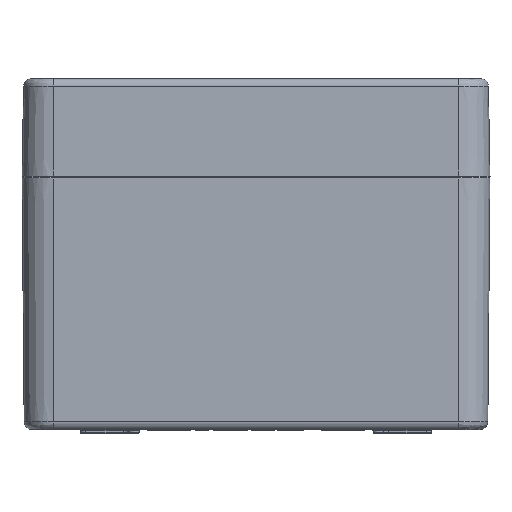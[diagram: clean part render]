
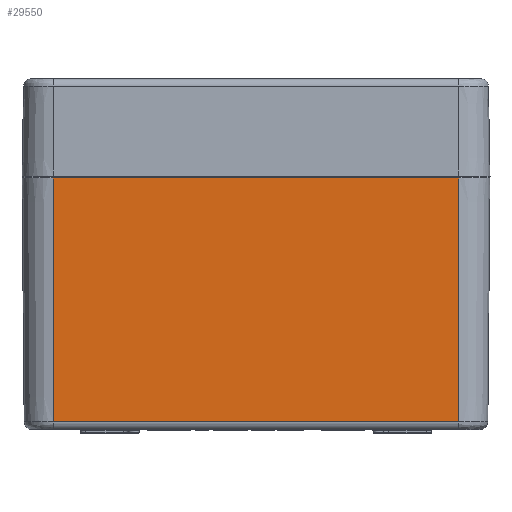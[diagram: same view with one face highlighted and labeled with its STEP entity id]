
A CAD part, front view. The second image highlights one B-rep face of the part: STEP entity #29550.
In plain terms, the highlighted planar face has unit normal (0, -1, -0.009).
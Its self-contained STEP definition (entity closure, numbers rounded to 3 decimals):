
#1853 = VECTOR ( 'NONE', #21988, 1000. ) ;
#2424 = VECTOR ( 'NONE', #28248, 1000. ) ;
#5520 = ORIENTED_EDGE ( 'NONE', *, *, #16308, .F. ) ;
#7810 = EDGE_CURVE ( 'NONE', #38440, #31833, #33858, .T. ) ;
#9645 = ORIENTED_EDGE ( 'NONE', *, *, #7810, .F. ) ;
#9810 = DIRECTION ( 'NONE',  ( 0., 0.009, -1. ) ) ;
#10677 = CARTESIAN_POINT ( 'NONE',  ( 0., -61., 0. ) ) ;
#10817 = DIRECTION ( 'NONE',  ( 0., -0.009, 1. ) ) ;
#12950 = PLANE ( 'NONE',  #29521 ) ;
#13464 = EDGE_CURVE ( 'NONE', #26662, #14219, #18598, .T. ) ;
#14219 = VERTEX_POINT ( 'NONE', #17519 ) ;
#14918 = FACE_OUTER_BOUND ( 'NONE', #15199, .T. ) ;
#15199 = EDGE_LOOP ( 'NONE', ( #9645, #5520, #19620, #17997 ) ) ;
#15332 = CARTESIAN_POINT ( 'NONE',  ( -52., -60.45, -63.017 ) ) ;
#16308 = EDGE_CURVE ( 'NONE', #14219, #38440, #20381, .T. ) ;
#17096 = VECTOR ( 'NONE', #9810, 1000. ) ;
#17519 = CARTESIAN_POINT ( 'NONE',  ( 52., -60.45, -63.017 ) ) ;
#17997 = ORIENTED_EDGE ( 'NONE', *, *, #35208, .F. ) ;
#18598 = LINE ( 'NONE', #28936, #17096 ) ;
#19555 = CARTESIAN_POINT ( 'NONE',  ( 52., -60.996, -0.5 ) ) ;
#19620 = ORIENTED_EDGE ( 'NONE', *, *, #13464, .F. ) ;
#20045 = CARTESIAN_POINT ( 'NONE',  ( -52., -60.996, -0.5 ) ) ;
#20381 = LINE ( 'NONE', #37730, #2424 ) ;
#21988 = DIRECTION ( 'NONE',  ( 0., -0.009, 1. ) ) ;
#26662 = VERTEX_POINT ( 'NONE', #19555 ) ;
#28159 = CARTESIAN_POINT ( 'NONE',  ( -52., -61., 0. ) ) ;
#28248 = DIRECTION ( 'NONE',  ( -1., 0., 0. ) ) ;
#28936 = CARTESIAN_POINT ( 'NONE',  ( 52., -61., 0. ) ) ;
#29521 = AXIS2_PLACEMENT_3D ( 'NONE', #10677, #39286, #10817 ) ;
#29550 = ADVANCED_FACE ( 'NONE', ( #14918 ), #12950, .F. ) ;
#30465 = CARTESIAN_POINT ( 'NONE',  ( 0., -60.996, -0.5 ) ) ;
#31833 = VERTEX_POINT ( 'NONE', #20045 ) ;
#32180 = VECTOR ( 'NONE', #39668, 1000. ) ;
#33858 = LINE ( 'NONE', #28159, #1853 ) ;
#35208 = EDGE_CURVE ( 'NONE', #31833, #26662, #35601, .T. ) ;
#35601 = LINE ( 'NONE', #30465, #32180 ) ;
#37730 = CARTESIAN_POINT ( 'NONE',  ( 0., -60.45, -63.017 ) ) ;
#38440 = VERTEX_POINT ( 'NONE', #15332 ) ;
#39286 = DIRECTION ( 'NONE',  ( 0., 1., 0.009 ) ) ;
#39668 = DIRECTION ( 'NONE',  ( 1., 0., 0. ) ) ;
